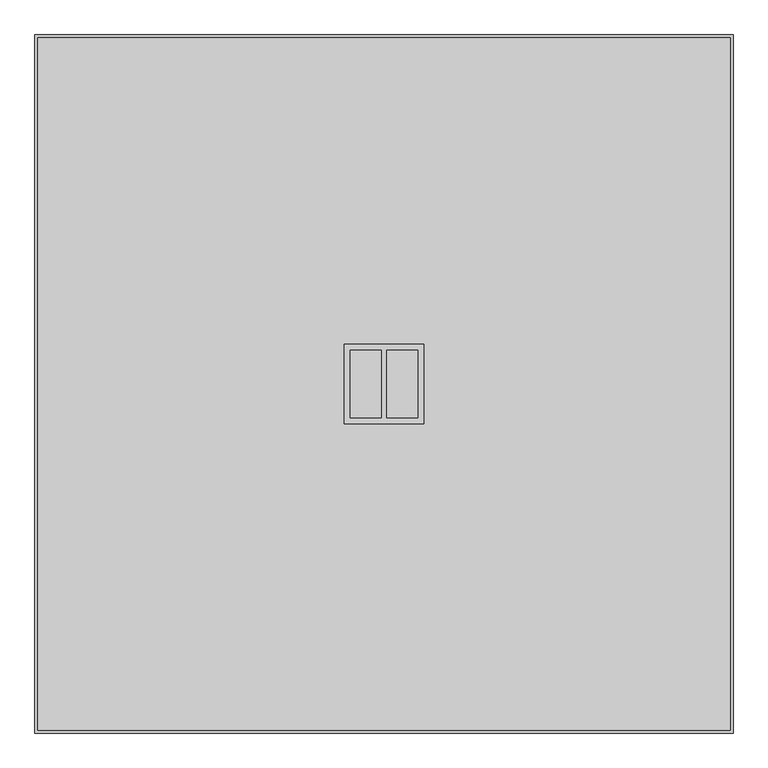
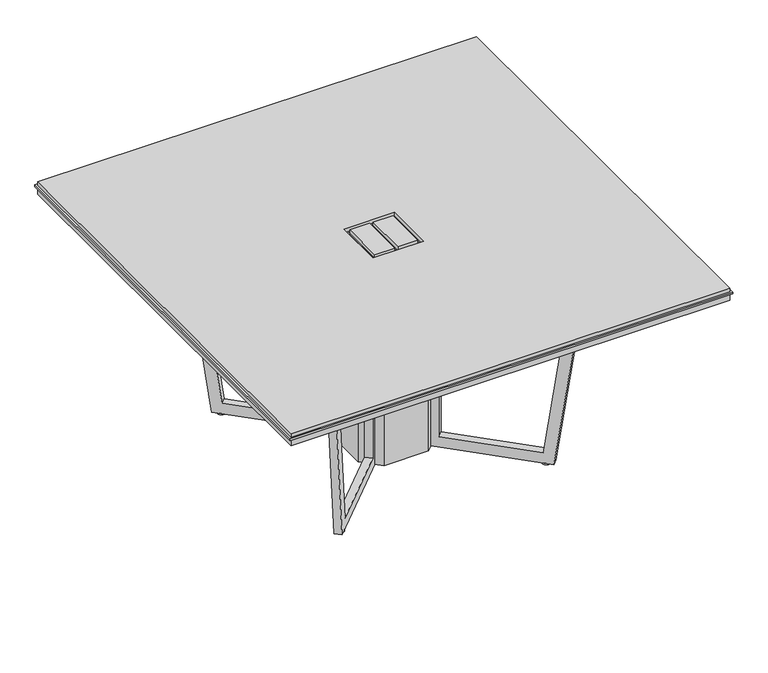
"""IFC4 building model written with IfcOpenShell, lengths in millimetres: furniture geometry, Knoll_Datesweiser_Tables_Meeting_Highline_Square : 60W Corian WireMgmt."""

from ifc_helpers import new_model, si_unit, point, frame, frame_2d, origin, origin_with_axes, place, context, project, spatial, polyline, circle_curve, trimmed, segment, composite_curve, outline, extrude, faceted_brep, source, transform, mapped, element, save


def furniture_c36d8510(model_context):
    return source(origin(), model_context, "Body", "SolidModel", [
        extrude(outline(polyline([(762.0, 762.0), (762.0, -762.0), (-762.0, -762.0), (-762.0, 762.0), (762.0, 762.0)])), frame((0.0, 0.0, 698.5), z_axis=(0.0, 0.0, 1.0), x_axis=(1.0, 0.0, 0.0)), (0.0, 0.0, 1.0), 25.4),
        extrude(outline(polyline([(762.0, 762.0), (762.0, -762.0), (-762.0, -762.0), (-762.0, 762.0), (762.0, 762.0)]), holes=[polyline([(-87.3125, -87.3125), (87.3125, -87.3125), (87.3125, 87.3125), (-87.3125, 87.3125), (-87.3125, -87.3125)])]), frame((0.0, 0.0, 730.25), z_axis=(0.0, 0.0, 1.0), x_axis=(1.0, 0.0, 0.0)), (0.0, 0.0, 1.0), 12.7),
        extrude(outline(polyline([(6.35, -74.6125), (6.35, 74.6125), (74.6125, 74.6125), (74.6125, -74.6125), (6.35, -74.6125)])), frame((0.0, 0.0, 730.25), z_axis=(0.0, 0.0, 1.0), x_axis=(1.0, 0.0, 0.0)), (0.0, 0.0, 1.0), 12.7),
        extrude(outline(polyline([(-6.35, 74.6125), (-6.35, -74.6125), (-74.6125, -74.6125), (-74.6125, 74.6125), (-6.35, 74.6125)])), frame((0.0, 0.0, 730.25), z_axis=(0.0, 0.0, 1.0), x_axis=(1.0, 0.0, 0.0)), (0.0, 0.0, 1.0), 12.7),
        extrude(outline(polyline([(768.35, 768.35), (768.35, -768.35), (-768.35, -768.35), (-768.35, 768.35), (768.35, 768.35)]), holes=[polyline([(-87.3125, -87.3125), (87.3125, -87.3125), (87.3125, 87.3125), (-87.3125, 87.3125), (-87.3125, -87.3125)])]), frame((0.0, 0.0, 723.9), z_axis=(0.0, 0.0, 1.0), x_axis=(1.0, 0.0, 0.0)), (0.0, 0.0, 1.0), 6.35),
        extrude(outline(polyline([(6.35, -74.6125), (6.35, 74.6125), (74.6125, 74.6125), (74.6125, -74.6125), (6.35, -74.6125)])), frame((0.0, 0.0, 723.9), z_axis=(0.0, 0.0, 1.0), x_axis=(1.0, 0.0, 0.0)), (0.0, 0.0, 1.0), 6.35),
        extrude(outline(polyline([(-6.35, 74.6125), (-6.35, -74.6125), (-74.6125, -74.6125), (-74.6125, 74.6125), (-6.35, 74.6125)])), frame((0.0, 0.0, 723.9), z_axis=(0.0, 0.0, 1.0), x_axis=(1.0, 0.0, 0.0)), (0.0, 0.0, 1.0), 6.35),
        extrude(outline(composite_curve([segment(trimmed(circle_curve(frame_2d((-357.9481367, -357.9481367)), 12.7), [point((-345.2481367, -357.9481367))], [point((-370.6481367, -357.9481367))], False, "CARTESIAN"), True, "CONTINUOUS"), segment(trimmed(circle_curve(frame_2d((-357.9481367, -357.9481367)), 12.7), [point((-370.6481367, -357.9481367))], [point((-345.2481367, -357.9481367))], False, "CARTESIAN"), True, "CONTINUOUS")], self_intersect=False)), origin_with_axes(), (0.0, 0.0, 1.0), 5.9867797),
        extrude(outline(composite_curve([segment(trimmed(circle_curve(frame_2d((-357.9481367, 357.9481367)), 12.7), [point((-345.2481367, 357.9481367))], [point((-370.6481367, 357.9481367))], False, "CARTESIAN"), True, "CONTINUOUS"), segment(trimmed(circle_curve(frame_2d((-357.9481367, 357.9481367)), 12.7), [point((-370.6481367, 357.9481367))], [point((-345.2481367, 357.9481367))], False, "CARTESIAN"), True, "CONTINUOUS")], self_intersect=False)), origin_with_axes(), (0.0, 0.0, 1.0), 5.9867797),
        extrude(outline(composite_curve([segment(trimmed(circle_curve(frame_2d((357.9481367, -357.9481367)), 12.7), [point((370.6481367, -357.9481367))], [point((345.2481367, -357.9481367))], False, "CARTESIAN"), True, "CONTINUOUS"), segment(trimmed(circle_curve(frame_2d((357.9481367, -357.9481367)), 12.7), [point((345.2481367, -357.9481367))], [point((370.6481367, -357.9481367))], False, "CARTESIAN"), True, "CONTINUOUS")], self_intersect=False)), origin_with_axes(), (0.0, 0.0, 1.0), 5.9867797),
        extrude(outline(composite_curve([segment(trimmed(circle_curve(frame_2d((357.9481367, 357.9481367)), 12.7), [point((370.6481367, 357.9481367))], [point((345.2481367, 357.9481367))], False, "CARTESIAN"), True, "CONTINUOUS"), segment(trimmed(circle_curve(frame_2d((357.9481367, 357.9481367)), 12.7), [point((345.2481367, 357.9481367))], [point((370.6481367, 357.9481367))], False, "CARTESIAN"), True, "CONTINUOUS")], self_intersect=False)), origin_with_axes(), (0.0, 0.0, 1.0), 5.9867797),
        faceted_brep([(-105.5180417, 87.5575295, 698.5000242), (-132.4542329, 114.4937206, 698.5000242), (-132.4542329, 114.4937206, 44.0867803), (-362.731756, 344.7712438, 44.0867803), (-427.7656237, 409.8051114, 698.5000242), (-454.9711667, 437.0106545, 698.5000242), (-386.1246404, 368.1641282, 5.7213276), (-115.3405838, 97.3800716, 6.2173274), (-115.3405838, 97.3800716, 679.2551774), (-105.5179146, 87.5574023, 679.2551774), (368.1641282, -386.1246404, 5.7213276), (437.0106545, -454.9711667, 698.5000242), (409.8051114, -427.7656237, 698.5000242), (344.7712438, -362.731756, 44.0867803), (114.4937206, -132.4542329, 44.0867803), (114.4937206, -132.4542329, 698.5000242), (87.5575295, -105.5180417, 698.5000242), (87.5574023, -105.5179146, 679.2551774), (97.3800716, -115.3405838, 679.2551774), (97.3800716, -115.3405838, 6.2173274), (-368.1641282, 386.1246404, 5.7213276), (-437.0106545, 454.9711667, 698.5000242), (-409.8051114, 427.7656237, 698.5000242), (-344.7712438, 362.731756, 44.0867803), (-114.4937206, 132.4542329, 44.0867803), (-114.4937206, 132.4542329, 698.5000242), (-87.5575295, 105.5180417, 698.5000242), (-87.5574023, 105.5179146, 679.2551774), (-97.3800759, 115.3405882, 679.2551774), (-97.3800759, 115.3405882, 6.2173274), (105.5180417, -87.5575295, 698.5000242), (132.4542329, -114.4937206, 698.5000242), (132.4542329, -114.4937206, 44.0867803), (362.731756, -344.7712438, 44.0867803), (427.7656237, -409.8051114, 698.5000242), (454.9711667, -437.0106545, 698.5000242), (386.1246404, -368.1641282, 5.7213276), (115.3405882, -97.3800759, 6.2173274), (115.3405882, -97.3800759, 679.2551774), (105.5179146, -87.5574023, 679.2551774), (-134.8689207, 77.8517251, 679.2551774), (-134.8689207, -77.8517528, 679.2551774), (-77.8517251, -134.8689207, 679.2551774), (77.8517251, -134.8689207, 679.2551774), (134.8689207, -77.8517528, 679.2551774), (134.8689207, 77.8517251, 679.2551774), (77.8517528, 134.8689207, 679.2551774), (-77.8517528, 134.8689207, 679.2551774), (-134.8689207, 77.8517251, 5.8810183), (-77.8517528, 134.8689207, 5.8810183), (77.8517528, 134.8689207, 5.8810183), (134.8689207, 77.8517251, 5.8810183), (134.8689207, -77.8517528, 5.8810183), (77.8517251, -134.8689207, 5.8810183), (-77.8517251, -134.8689207, 5.8810183), (-134.8689207, -77.8517528, 5.8810183)], [[[0, 1, 2, 3, 4, 5, 6, 7, 8, 9]], [[10, 11, 12, 13, 14, 15, 16, 17, 18, 19]], [[20, 21, 22, 23, 24, 25, 26, 27, 28, 29]], [[30, 31, 32, 33, 34, 35, 36, 37, 38, 39]], [[3, 2, 24, 23]], [[4, 3, 23, 22]], [[5, 4, 22, 21]], [[6, 5, 21, 20]], [[6, 20, 29, 7]], [[26, 0, 9, 27]], [[1, 0, 26, 25]], [[2, 1, 25, 24]], [[36, 10, 19, 37]], [[11, 10, 36, 35]], [[12, 11, 35, 34]], [[13, 12, 34, 33]], [[14, 13, 33, 32]], [[15, 14, 32, 31]], [[16, 15, 31, 30]], [[16, 30, 39, 17]], [[40, 41, 42, 43, 18, 17, 39, 38, 44, 45, 46, 47, 28, 27, 9, 8]], [[48, 49, 50, 51, 52, 53, 54, 55]], [[41, 40, 48, 55]], [[42, 41, 55, 54]], [[43, 42, 54, 53]], [[53, 52, 44, 38, 37, 19, 18, 43]], [[45, 44, 52, 51]], [[46, 45, 51, 50]], [[47, 46, 50, 49]], [[49, 48, 40, 8, 7, 29, 28, 47]]]),
        extrude(outline(polyline([(687.3294598, 0.0), (687.8397529, -396.8441293), (-4.9398532, -494.2013488), (-4.9394938, -455.7269008), (649.4746093, -363.7612365), (649.4776515, -38.0996402), (-4.9355924, -38.0935268), (-4.9352365, 0.0), (687.3294598, 0.0)])), frame((105.5180091, 87.5574969, 693.5647877), z_axis=(-0.7071067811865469, 0.7071067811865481, 0.0), x_axis=(-6.605612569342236e-06, -6.605612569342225e-06, -0.9999999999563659)), (0.0, 0.0, 1.0), 25.4),
        extrude(outline(polyline([(687.3320105, 273.0371574), (-4.9326857, 273.0500913), (-4.9323299, 311.1436182), (649.480914, 311.1375048), (649.4839562, 636.7991012), (-4.9284285, 728.7769922), (-4.928069, 767.2514401), (687.849718, 669.8812771), (687.3320105, 273.0371574)])), frame((105.5180091, 87.5574969, 693.5647877), z_axis=(-0.7071067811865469, 0.7071067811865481, 0.0), x_axis=(-6.605612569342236e-06, -6.605612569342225e-06, -0.9999999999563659)), (0.0, 0.0, 1.0), 25.4),
    ])


if __name__ == "__main__":
    model = new_model("IFC4")
    model_context = context("Model", 3, world=origin())
    ifc_project = project(units=[si_unit("LENGTHUNIT", "METRE", prefix="MILLI")], contexts=[model_context])
    site = spatial("IfcSite", under=ifc_project)
    building = spatial("IfcBuilding", under=site)
    placement = place(None, origin())
    furniture_shape = furniture_c36d8510(model_context)
    element("IfcFurniture", 1, ObjectType="Knoll_Datesweiser_Tables_Meeting_Highline_Square : 60W Corian WireMgmt", at=placement, inside=building, context=model_context, shape_type="MappedRepresentation", body=[
        mapped(furniture_shape, transform((0.0, 0.0, 0.0), x_axis=(1.0, 0.0, 0.0), y_axis=(0.0, 1.0, 0.0), z_axis=(0.0, 0.0, 1.0))),
    ])
    save(model, "model.ifc")
